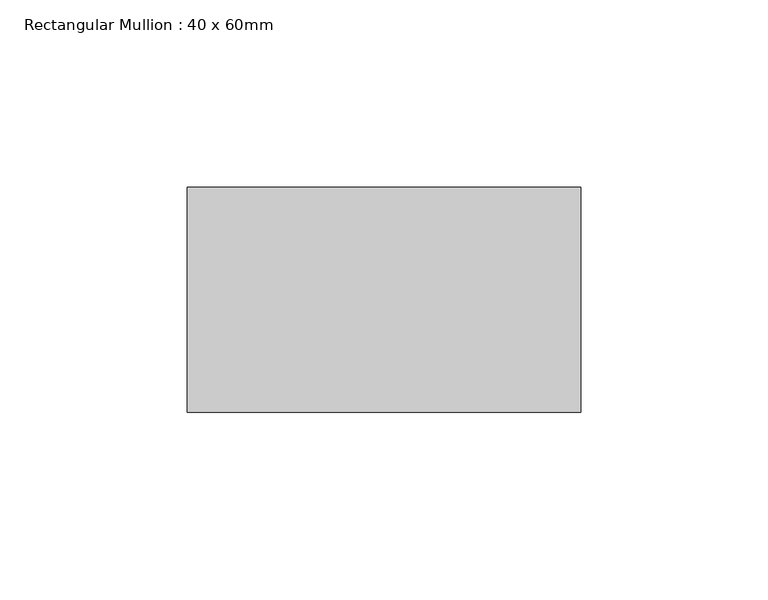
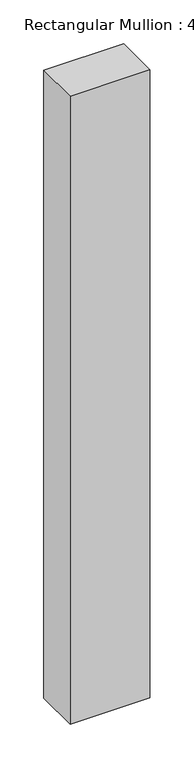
"""IFC4 building model written with IfcOpenShell, lengths in millimetres: member geometry, Rectangular Mullion : 40 x 60mm."""

from ifc_helpers import new_model, si_unit, frame, origin, place, context, project, spatial, polyline, outline, extrude, source, transform, mapped, element, save


def rectangular_mullion_40_x_60mm_5b529eec(model_context):
    return source(origin(), model_context, "Body", "SweptSolid", [
        extrude(outline(polyline([(80.0, -10.0), (80.0, -70.0), (-25.0, -70.0), (-25.0, -10.0), (80.0, -10.0)])), frame((0.0, 0.0, -873.6432412), z_axis=(0.0, 0.0, 1.0), x_axis=(1.0, 0.0, 0.0)), (0.0, 0.0, 1.0), 873.6432412),
    ])


if __name__ == "__main__":
    model = new_model("IFC4")
    model_context = context("Model", 3, world=origin())
    ifc_project = project(units=[si_unit("LENGTHUNIT", "METRE", prefix="MILLI")], contexts=[model_context])
    site = spatial("IfcSite", under=ifc_project)
    building = spatial("IfcBuilding", under=site)
    placement = place(None, origin())
    rectangular_mullion_40_x_60mm_shape = rectangular_mullion_40_x_60mm_5b529eec(model_context)
    element("IfcMember", 1, ObjectType="Rectangular Mullion : 40 x 60mm", at=placement, inside=building, context=model_context, shape_type="MappedRepresentation", body=[
        mapped(rectangular_mullion_40_x_60mm_shape, transform((0.0, 0.0, 0.0), x_axis=(1.0, 0.0, 0.0), y_axis=(0.0, 1.0, 0.0), z_axis=(0.0, 0.0, 1.0))),
    ])
    save(model, "model.ifc")
